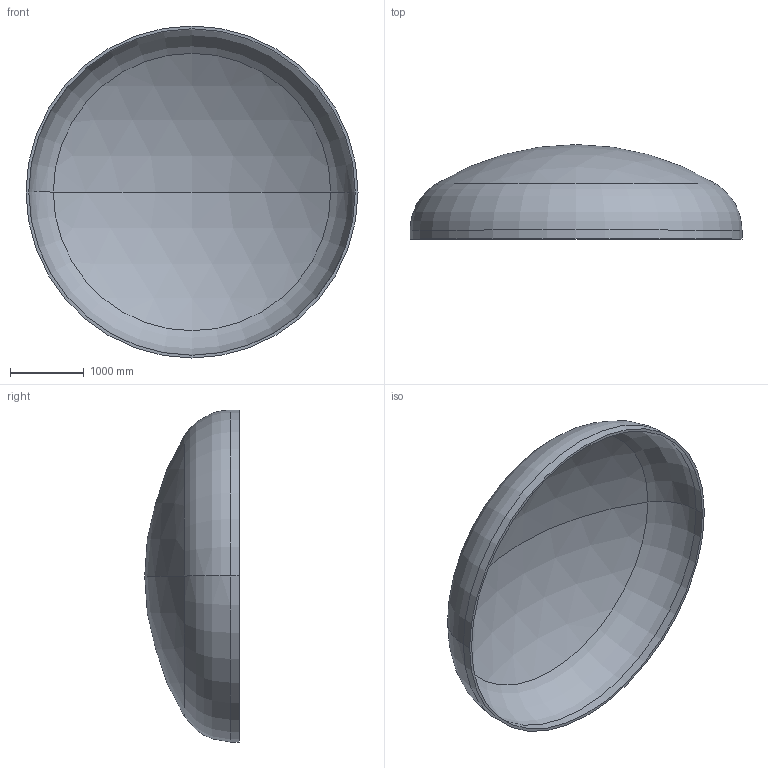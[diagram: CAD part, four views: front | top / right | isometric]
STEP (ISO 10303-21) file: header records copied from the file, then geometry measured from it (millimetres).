
FILE_DESCRIPTION (( 'STEP AP203' ), '1' );
FILE_NAME ('DIN 28013 Korbbogenform_-_Boden DIN 28013 - 4500 x 120 - I - s=38.step', '2016-07-01T23:22:42', ( '' ), ( '' ), 'SwSTEP 2.0', 'SolidWorks 2013', '' );
FILE_SCHEMA (( 'CONFIG_CONTROL_DESIGN' ));
Length unit declared in the file: millimetre
Products named in the file (1): DIN 28013 Korbbogenform_-_Boden DIN 28013 - 4500 x 120 - I - s=38
Bounding box: 4500 x 1280.55 x 4500 mm (x, y, z)
Volume: 892132208 mm3; surface area: 47490009.3 mm2
Topology: 1 solids, 1 shells, 13 faces, 24 edges, 14 vertices
Faces by surface type: torus 4, cylinder 4, sphere 4, plane 1
Entity records: 407 total; most frequent: DIRECTION 72, CARTESIAN_POINT 52, ORIENTED_EDGE 48, AXIS2_PLACEMENT_3D 34, EDGE_CURVE 24, CIRCLE 20, EDGE_LOOP 14, VERTEX_POINT 14
